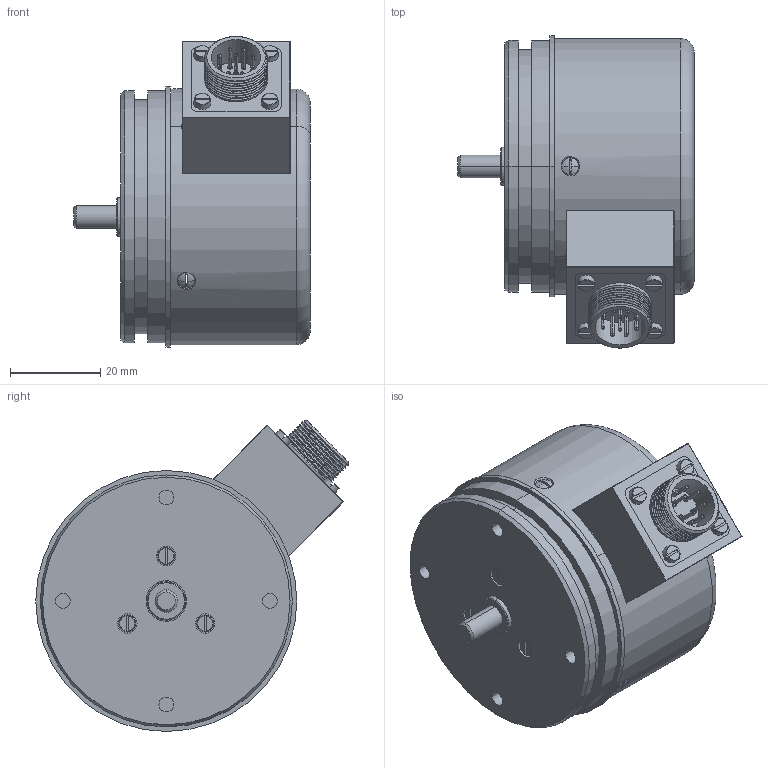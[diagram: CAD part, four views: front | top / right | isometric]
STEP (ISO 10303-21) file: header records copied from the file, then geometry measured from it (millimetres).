
FILE_DESCRIPTION (( 'STEP AP214' ), '1' );
FILE_NAME ('ﾋﾈﾐ-158ﾁ.STEP', '2017-05-23T08:42:07', ( '' ), ( '' ), 'SwSTEP 2.0', 'SolidWorks 2013', '' );
FILE_SCHEMA (( 'AUTOMOTIVE_DESIGN' ));
Length unit declared in the file: millimetre
Products named in the file (1): ﾋﾈﾐ-158ﾁ
Bounding box: 52.5 x 69.41 x 69.1 mm (x, y, z)
Surface area: 17223 mm2 (no closed solid volume)
Topology: 0 solids, 29 shells, 222 faces, 638 edges, 437 vertices
Faces by surface type: cylinder 81, plane 62, torus 36, cone 22, sphere 13, bspline 8
Entity records: 13700 total; most frequent: CARTESIAN_POINT 5506, DIRECTION 1266, ORIENTED_EDGE 1072, EDGE_CURVE 637, AXIS2_PLACEMENT_3D 546, VERTEX_POINT 437, CIRCLE 331, EDGE_LOOP 261
